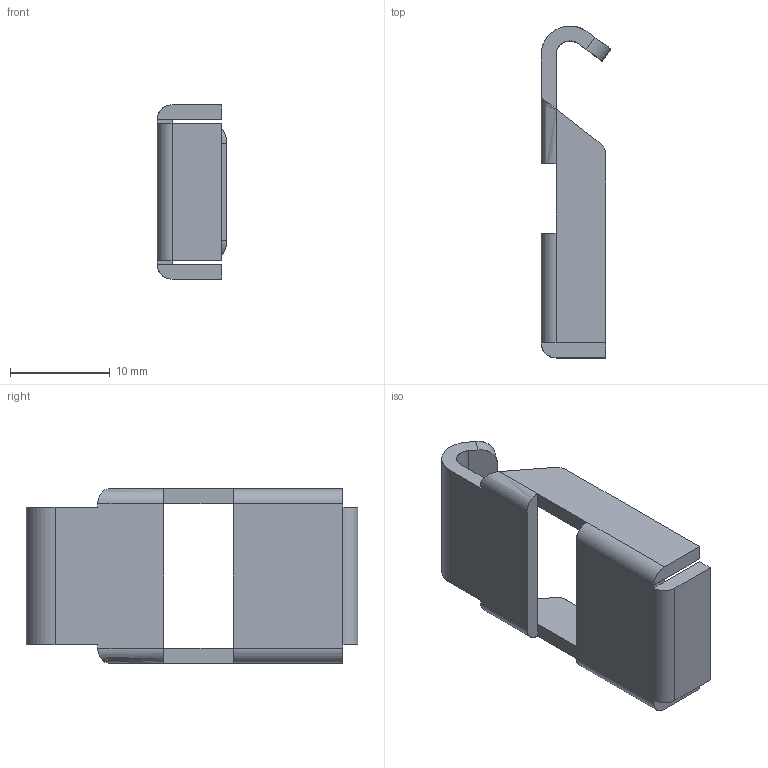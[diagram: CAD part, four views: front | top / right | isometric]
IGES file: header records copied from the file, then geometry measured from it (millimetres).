
Start section: SolidWorks IGES FILE using analytic representation for surfaces
Global section: file name: C:\Documents and Settings\lecoutey\Bureau\GP 16\16.030.10.IGS; native system: SolidWorks 2004 by SolidWorks Corporation; preprocessor: Version 5.3; author: lecoutey; date: 050329.133751; units: millimetre
Bounding box: 7 x 33.3 x 17.5 mm (x, y, z)
Surface area: 1788.2 mm2 (no closed solid volume)
Topology: 0 solids, 0 shells, 41 faces, 372 edges, 372 vertices
Faces by surface type: bspline 30, revolution 11
